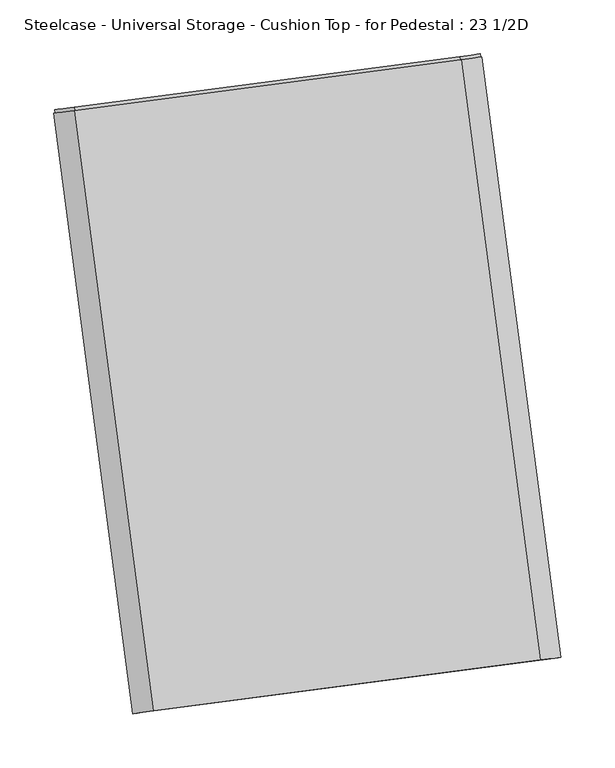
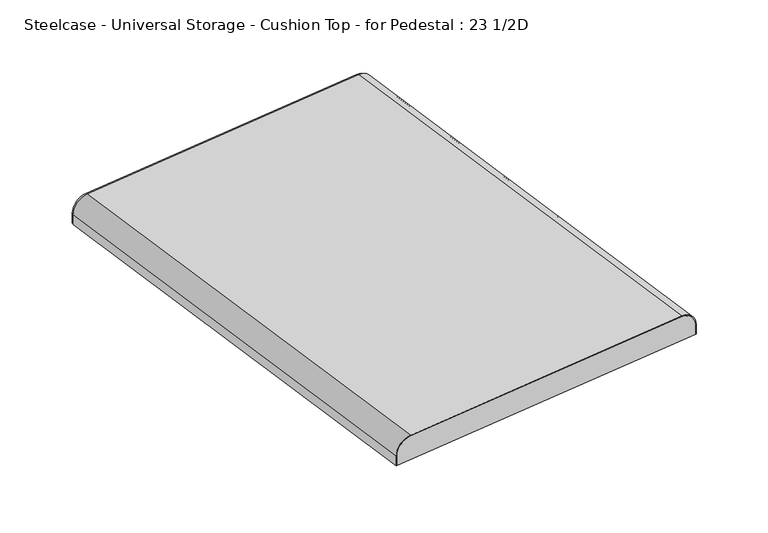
"""IFC4 building model written with IfcOpenShell, lengths in millimetres: furniture geometry, Steelcase - Universal Storage - Cushion Top - for Pedestal : 23 1/2D."""

from ifc_helpers import new_model, si_unit, point, frame, frame_2d, origin, place, context, project, spatial, polyline, circle_curve, trimmed, segment, composite_curve, outline, extrude, source, transform, mapped, element, save


def steelcase_universal_storage_cushion_top_for_pedestal_23_1_2d_a215be0f(model_context):
    return source(origin(), model_context, "Body", "SweptSolid", [
        extrude(outline(composite_curve([segment(polyline([(12.4883434, 0.0), (12.4883434, -398.1718688), (0.9825059, -398.1718688)]), True, "CONTINUOUS"), segment(trimmed(circle_curve(frame_2d((0.9825059, -379.1218688)), 19.05), [point((0.9825059, -398.1718688))], [point((-18.0674941, -379.1218688))], False, "CARTESIAN"), True, "CONTINUOUS"), segment(polyline([(-18.0674941, -379.1218688), (-18.0674941, -18.067494)]), True, "CONTINUOUS"), segment(trimmed(circle_curve(frame_2d((0.0, -18.067494)), 18.0674941), [point((-18.0674941, -18.067494))], [point((0.0, 0.0))], False, "CARTESIAN"), True, "CONTINUOUS"), segment(polyline([(0.0, 0.0), (12.4883434, 0.0)]), True, "CONTINUOUS")], self_intersect=False)), frame((77.5029954, -579.8019477, 545.8883434), z_axis=(-0.13053051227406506, 0.9914442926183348, 0.0), x_axis=(0.0, 0.0, -1.0)), (0.0, 0.0, 1.0), 565.2730172),
        extrude(outline(composite_curve([segment(polyline([(12.5218375, 0.0), (12.5218375, -1.016), (0.0334941, -1.016)]), True, "CONTINUOUS"), segment(trimmed(circle_curve(frame_2d((0.0334941, -19.083494)), 18.0674941), [point((0.0334941, -1.016))], [point((-18.034, -19.083494))], True, "CARTESIAN"), True, "CONTINUOUS"), segment(polyline([(-18.034, -19.083494), (-18.034, -380.2817351)]), True, "CONTINUOUS"), segment(trimmed(circle_curve(frame_2d((1.016, -380.2817351)), 19.05), [point((-18.034, -380.2817351))], [point((1.016, -399.3317352))], True, "CARTESIAN"), True, "CONTINUOUS"), segment(polyline([(1.016, -399.3317352), (12.5218375, -399.3317352), (12.5218375, -400.3477352), (0.0538401, -400.3477352)]), True, "CONTINUOUS"), segment(trimmed(circle_curve(frame_2d((-0.0076377, -381.3054545)), 19.0423799), [point((0.0538401, -400.3477352))], [point((-19.05, -381.2795517))], False, "CARTESIAN"), True, "CONTINUOUS"), segment(polyline([(-19.05, -381.2795517), (-19.05, -19.0499999)]), True, "CONTINUOUS"), segment(trimmed(circle_curve(frame_2d((0.0, -19.0499999)), 19.05), [point((-19.05, -19.0499999))], [point((0.0, 0.0))], False, "CARTESIAN"), True, "CONTINUOUS"), segment(polyline([(0.0, 0.0), (12.5218375, 0.0)]), True, "CONTINUOUS")], self_intersect=False)), frame((76.3530525, -579.9533457, 545.9218375), z_axis=(-0.13053051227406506, 0.9914442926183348, 0.0), x_axis=(0.0, 0.0, -1.0)), (0.0, 0.0, 1.0), 562.2235172),
    ])


if __name__ == "__main__":
    model = new_model("IFC4")
    model_context = context("Model", 3, world=origin())
    ifc_project = project(units=[si_unit("LENGTHUNIT", "METRE", prefix="MILLI")], contexts=[model_context])
    site = spatial("IfcSite", under=ifc_project)
    building = spatial("IfcBuilding", under=site)
    placement = place(None, origin())
    steelcase_universal_storage_cushion_top_for_pedestal_23_1_2d_shape = steelcase_universal_storage_cushion_top_for_pedestal_23_1_2d_a215be0f(model_context)
    element("IfcFurniture", 1, ObjectType="Steelcase - Universal Storage - Cushion Top - for Pedestal : 23 1/2D", at=placement, inside=building, context=model_context, shape_type="MappedRepresentation", body=[
        mapped(steelcase_universal_storage_cushion_top_for_pedestal_23_1_2d_shape, transform((0.0, 0.0, 0.0), x_axis=(1.0, 0.0, 0.0), y_axis=(0.0, 1.0, 0.0), z_axis=(0.0, 0.0, 1.0))),
    ])
    save(model, "model.ifc")
